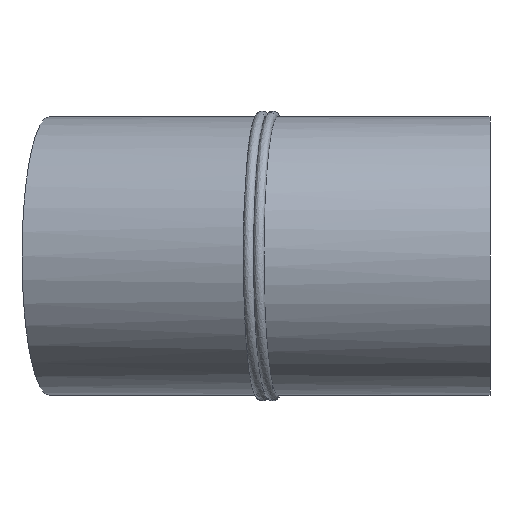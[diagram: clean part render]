
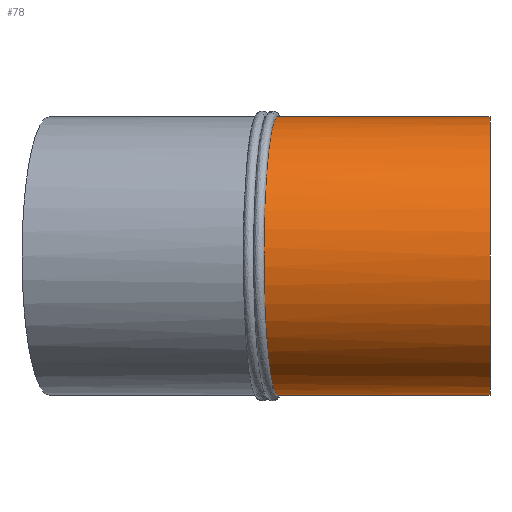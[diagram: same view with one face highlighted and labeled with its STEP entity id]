
A CAD part, left-side view. The second image highlights one B-rep face of the part: STEP entity #78.
In plain terms, the highlighted cylindrical face has radius 200 mm (diameter 400 mm), a full revolution.
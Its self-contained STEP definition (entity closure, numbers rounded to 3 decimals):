
#32=B_SPLINE_CURVE_WITH_KNOTS('',3,(#131,#132,#133,#134,#135,#136,#137,
#138,#139,#140,#141,#142,#143,#144,#145,#146,#147,#148,#149,#150,#151,#152,
#153,#154,#155,#156,#157,#158,#159,#160,#161,#162,#163,#164,#165,#166,#167,
#168,#169,#170,#171,#172,#173,#174,#175,#176,#177,#178,#179,#180,#181,#182,
#183,#184,#185,#186,#187,#188,#189,#190,#191,#192,#193,#194,#195,#196,#197,
#198,#199,#200,#201,#202,#203,#204,#205,#206,#207,#208,#209,#210,#211,#212,
#213,#214,#215,#216,#217),.UNSPECIFIED.,.T.,.F.,(1,1,1,1,1,1,1,1,1,1,1,
1,1,1,1,1,1,1,1,1,1,1,1,1,1,1,1,1,1,1,1,1,1,1,1,1,1,1,1,1,1,1,1,1,1,1,1,
1,1,1,1,1,1,1,1,1,1,1,1,1,1,1,1,1,1,1,1,1,1,1,1,1,1,1,1,1,1,1,1,1,1,1,1,
1,1,1,1,1,1,1,1),(-0.049,-0.04,-0.02,
0.,0.02,0.04,0.059,
0.069,0.079,0.099,0.119,
0.128,0.138,0.158,0.178,
0.188,0.198,0.207,0.217,
0.227,0.237,0.257,0.277,
0.296,0.306,0.316,0.326,0.336,
0.356,0.375,0.395,0.415,
0.425,0.435,0.454,0.474,
0.494,0.504,0.514,0.524,
0.534,0.553,0.573,0.593,
0.603,0.613,0.632,0.652,
0.662,0.672,0.692,0.711,
0.731,0.741,0.751,0.771,
0.79,0.81,0.83,0.85,
0.86,0.869,0.879,0.889,
0.909,0.929,0.948,0.968,
0.988,0.998,1.008,1.028,1.047,
1.067,1.087,1.097,1.107,1.116,
1.126,1.146,1.166,1.186,1.195,
1.205,1.215,1.225,1.245,1.265,
1.284,1.304,1.324),.UNSPECIFIED.);
#34=ORIENTED_EDGE('',*,*,#44,.T.);
#35=ORIENTED_EDGE('',*,*,#45,.F.);
#44=EDGE_CURVE('',#49,#49,#54,.T.);
#45=EDGE_CURVE('',#50,#50,#32,.T.);
#49=VERTEX_POINT('',#130);
#50=VERTEX_POINT('',#218);
#54=CIRCLE('',#99,200.);
#56=EDGE_LOOP('',(#34));
#57=EDGE_LOOP('',(#35));
#66=FACE_BOUND('',#56,.T.);
#67=FACE_BOUND('',#57,.T.);
#76=CYLINDRICAL_SURFACE('',#98,200.);
#78=ADVANCED_FACE('',(#66,#67),#76,.T.);
#98=AXIS2_PLACEMENT_3D('',#128,#109,#110);
#99=AXIS2_PLACEMENT_3D('',#129,#111,#112);
#109=DIRECTION('',(0.,-1.,0.));
#110=DIRECTION('',(0.,0.,-1.));
#111=DIRECTION('',(0.,1.,0.));
#112=DIRECTION('',(1.,0.,0.));
#128=CARTESIAN_POINT('',(0.,650.,0.));
#129=CARTESIAN_POINT('',(0.,0.,0.));
#130=CARTESIAN_POINT('',(200.,0.,0.));
#131=CARTESIAN_POINT('',(19.587,302.755,-199.356));
#132=CARTESIAN_POINT('',(0.029,304.695,-200.323));
#133=CARTESIAN_POINT('',(-19.701,306.653,-199.35));
#134=CARTESIAN_POINT('',(-39.004,308.573,-196.48));
#135=CARTESIAN_POINT('',(-54.742,310.139,-192.554));
#136=CARTESIAN_POINT('',(-67.114,311.372,-188.488));
#137=CARTESIAN_POINT('',(-79.367,312.594,-183.783));
#138=CARTESIAN_POINT('',(-94.176,314.072,-176.805));
#139=CARTESIAN_POINT('',(-108.286,315.483,-168.373));
#140=CARTESIAN_POINT('',(-118.999,316.555,-160.846));
#141=CARTESIAN_POINT('',(-129.375,317.593,-152.766));
#142=CARTESIAN_POINT('',(-141.481,318.807,-141.81));
#143=CARTESIAN_POINT('',(-152.412,319.902,-129.787));
#144=CARTESIAN_POINT('',(-160.457,320.71,-119.523));
#145=CARTESIAN_POINT('',(-166.142,321.281,-111.487));
#146=CARTESIAN_POINT('',(-171.438,321.813,-103.157));
#147=CARTESIAN_POINT('',(-176.301,322.301,-94.605));
#148=CARTESIAN_POINT('',(-180.744,322.748,-85.814));
#149=CARTESIAN_POINT('',(-186.1,323.286,-73.774));
#150=CARTESIAN_POINT('',(-191.644,323.843,-58.331));
#151=CARTESIAN_POINT('',(-196.464,324.329,-39.139));
#152=CARTESIAN_POINT('',(-198.877,324.571,-22.889));
#153=CARTESIAN_POINT('',(-199.844,324.669,-9.742));
#154=CARTESIAN_POINT('',(-200.081,324.693,0.107));
#155=CARTESIAN_POINT('',(-199.833,324.668,9.962));
#156=CARTESIAN_POINT('',(-198.85,324.569,23.115));
#157=CARTESIAN_POINT('',(-196.423,324.325,39.349));
#158=CARTESIAN_POINT('',(-191.577,323.837,58.542));
#159=CARTESIAN_POINT('',(-184.968,323.173,76.894));
#160=CARTESIAN_POINT('',(-178.011,322.473,91.577));
#161=CARTESIAN_POINT('',(-171.574,321.826,102.931));
#162=CARTESIAN_POINT('',(-164.524,321.118,114.051));
#163=CARTESIAN_POINT('',(-154.748,320.137,127.21));
#164=CARTESIAN_POINT('',(-141.469,318.805,141.83));
#165=CARTESIAN_POINT('',(-129.323,317.588,152.81));
#166=CARTESIAN_POINT('',(-118.947,316.55,160.885));
#167=CARTESIAN_POINT('',(-110.906,315.745,166.529));
#168=CARTESIAN_POINT('',(-102.605,314.915,171.769));
#169=CARTESIAN_POINT('',(-91.165,313.772,178.225));
#170=CARTESIAN_POINT('',(-76.365,312.295,185.195));
#171=CARTESIAN_POINT('',(-57.798,310.443,191.802));
#172=CARTESIAN_POINT('',(-41.941,308.865,195.745));
#173=CARTESIAN_POINT('',(-29.,307.578,197.968));
#174=CARTESIAN_POINT('',(-16.07,306.293,199.538));
#175=CARTESIAN_POINT('',(0.1,304.687,200.313));
#176=CARTESIAN_POINT('',(16.272,303.084,199.522));
#177=CARTESIAN_POINT('',(29.212,301.803,197.936));
#178=CARTESIAN_POINT('',(42.152,300.522,195.7));
#179=CARTESIAN_POINT('',(58.002,298.955,191.741));
#180=CARTESIAN_POINT('',(76.564,297.123,185.113));
#181=CARTESIAN_POINT('',(91.357,295.664,178.127));
#182=CARTESIAN_POINT('',(102.792,294.538,171.657));
#183=CARTESIAN_POINT('',(113.849,293.449,164.662));
#184=CARTESIAN_POINT('',(127.058,292.15,154.872));
#185=CARTESIAN_POINT('',(141.626,290.719,141.675));
#186=CARTESIAN_POINT('',(154.893,289.417,127.03));
#187=CARTESIAN_POINT('',(166.501,288.279,111.37));
#188=CARTESIAN_POINT('',(174.863,287.46,97.453));
#189=CARTESIAN_POINT('',(180.746,286.884,85.809));
#190=CARTESIAN_POINT('',(184.758,286.491,76.792));
#191=CARTESIAN_POINT('',(188.319,286.143,67.589));
#192=CARTESIAN_POINT('',(192.448,285.739,55.133));
#193=CARTESIAN_POINT('',(196.466,285.345,39.124));
#194=CARTESIAN_POINT('',(199.349,285.064,19.705));
#195=CARTESIAN_POINT('',(200.325,284.968,0.007));
#196=CARTESIAN_POINT('',(199.349,285.064,-19.758));
#197=CARTESIAN_POINT('',(196.916,285.301,-36.046));
#198=CARTESIAN_POINT('',(194.025,285.584,-48.855));
#199=CARTESIAN_POINT('',(190.49,285.93,-61.559));
#200=CARTESIAN_POINT('',(184.936,286.473,-76.998));
#201=CARTESIAN_POINT('',(176.432,287.306,-94.871));
#202=CARTESIAN_POINT('',(166.36,288.293,-111.581));
#203=CARTESIAN_POINT('',(156.677,289.242,-124.605));
#204=CARTESIAN_POINT('',(148.16,290.078,-134.465));
#205=CARTESIAN_POINT('',(141.363,290.745,-141.594));
#206=CARTESIAN_POINT('',(134.222,291.447,-148.38));
#207=CARTESIAN_POINT('',(124.299,292.422,-156.924));
#208=CARTESIAN_POINT('',(111.078,293.722,-166.706));
#209=CARTESIAN_POINT('',(94.221,295.382,-176.781));
#210=CARTESIAN_POINT('',(79.357,296.847,-183.787));
#211=CARTESIAN_POINT('',(67.153,298.052,-188.474));
#212=CARTESIAN_POINT('',(57.806,298.975,-191.548));
#213=CARTESIAN_POINT('',(48.336,299.911,-194.153));
#214=CARTESIAN_POINT('',(35.635,301.167,-196.987));
#215=CARTESIAN_POINT('',(19.587,302.755,-199.356));
#216=CARTESIAN_POINT('',(0.029,304.695,-200.323));
#217=CARTESIAN_POINT('',(-19.701,306.653,-199.35));
#218=CARTESIAN_POINT('',(0.,304.698,-200.));
